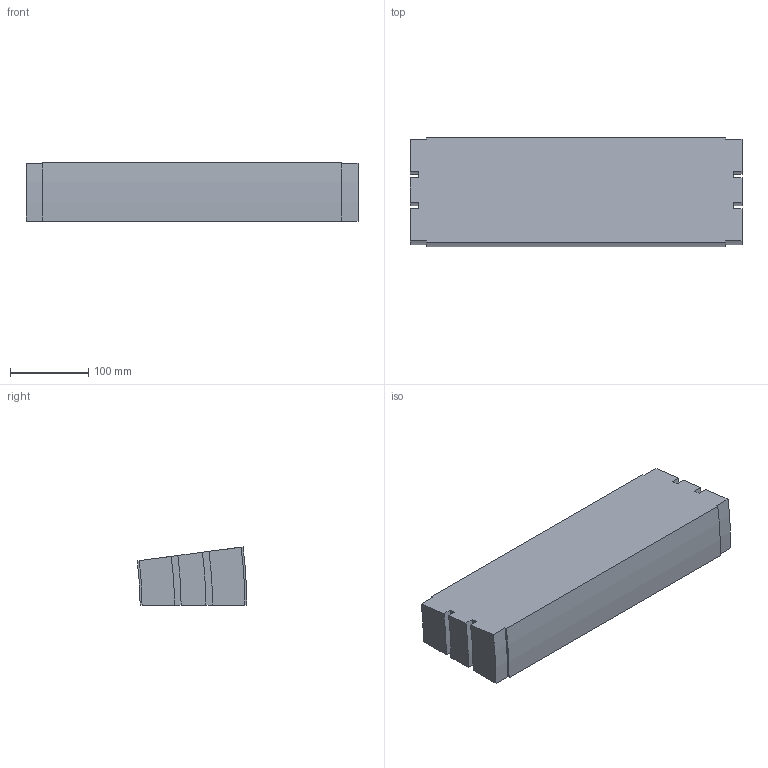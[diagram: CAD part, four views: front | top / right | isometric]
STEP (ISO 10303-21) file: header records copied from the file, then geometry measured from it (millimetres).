
FILE_DESCRIPTION (( 'STEP AP214' ), '1' );
FILE_NAME ('02.150V07.420.N FS-350-MTC-150 Bocht verticaal 7,5°.STEP', '2013-03-29T12:32:27', ( 'Gebruiker' ), ( '' ), 'SwSTEP 2.0', 'SolidWorks 2012', '' );
FILE_SCHEMA (( 'AUTOMOTIVE_DESIGN' ));
Length unit declared in the file: millimetre
Products named in the file (1): 02.150V07.420.N FS-350-MTC-150 Bocht verticaal 7,5°
Bounding box: 423 x 139.7 x 74.14 mm (x, y, z)
Volume: 3726976.1 mm3; surface area: 192820.5 mm2
Topology: 1 solids, 1 shells, 30 faces, 84 edges, 56 vertices
Faces by surface type: plane 16, cylinder 14
Entity records: 1010 total; most frequent: DIRECTION 174, CARTESIAN_POINT 171, ORIENTED_EDGE 168, EDGE_CURVE 84, AXIS2_PLACEMENT_3D 59, VERTEX_POINT 56, LINE 56, VECTOR 56
